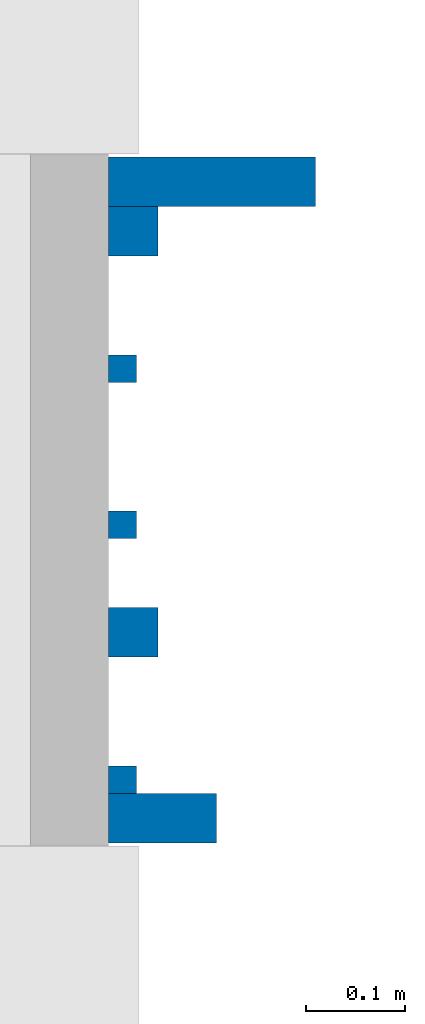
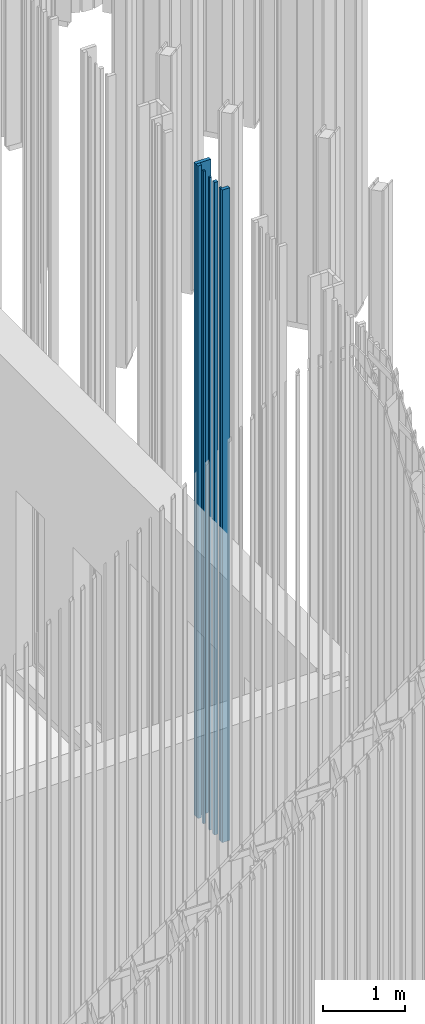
# One storey, part 179 of 390: 7 walls.
"""IFC2X3 building model written with IfcOpenShell, lengths in millimetres."""

from ifc_helpers import new_model, entity, si_unit, converted_unit, derived_unit, money_unit, direction, frame, origin_with_axes, place, context, subcontext, project, spatial, faceted_brep, material, type_object, element, save


model = new_model("IFC2X3")

# Units and contexts
model_context = context("Model", 3, precision=1e-05, world=origin_with_axes(), true_north=direction((0.0, 1.0)))
body_context = subcontext(model_context, "Body", "Model", "MODEL_VIEW")
ifc_project = project(units=[si_unit("LENGTHUNIT", "METRE", prefix="MILLI"), si_unit("AREAUNIT", "SQUARE_METRE"), si_unit("VOLUMEUNIT", "CUBIC_METRE"), converted_unit("PLANEANGLEUNIT", "DEGREE", entity("IfcPlaneAngleMeasure", 0.0174532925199), si_unit("PLANEANGLEUNIT", "RADIAN"), dimensions=[0, 0, 0, 0, 0, 0, 0]), si_unit("SOLIDANGLEUNIT", "STERADIAN"), money_unit("EUR"), converted_unit("TIMEUNIT", "Year", entity("IfcTimeMeasure", 31556926.0), si_unit("TIMEUNIT", "SECOND"), dimensions=[0, 0, 1, 0, 0, 0, 0]), si_unit("MASSUNIT", "GRAM", prefix="KILO"), si_unit("THERMODYNAMICTEMPERATUREUNIT", "DEGREE_CELSIUS"), si_unit("LUMINOUSINTENSITYUNIT", "LUMEN"), si_unit("ENERGYUNIT", "JOULE", prefix="MEGA"), derived_unit("THERMALCONDUCTANCEUNIT", [(si_unit("POWERUNIT", "WATT"), 1), (si_unit("LENGTHUNIT", "METRE"), -1), (si_unit("THERMODYNAMICTEMPERATUREUNIT", "KELVIN"), -1)]), derived_unit("SPECIFICHEATCAPACITYUNIT", [(si_unit("ENERGYUNIT", "JOULE"), 1), (si_unit("MASSUNIT", "GRAM", prefix="KILO"), -1), (si_unit("THERMODYNAMICTEMPERATUREUNIT", "KELVIN"), -1)]), derived_unit("MASSDENSITYUNIT", [(si_unit("MASSUNIT", "GRAM", prefix="KILO"), 1), (si_unit("VOLUMEUNIT", "CUBIC_METRE"), -1)])], contexts=[model_context])

# Site, building, storey
site_placement = place(None, origin_with_axes())
site = spatial("IfcSite", under=ifc_project, at=site_placement, Name="Site", CompositionType="ELEMENT")
building_placement = place(site_placement, origin_with_axes())
building = spatial("IfcBuilding", under=site, at=building_placement, Name="Building", CompositionType="ELEMENT")
storey_placement = place(building_placement, origin_with_axes())
storey = spatial("IfcBuildingStorey", under=building, at=storey_placement, Name="1 korrus", CompositionType="ELEMENT", Elevation=0.0)

# Walls
ifc_material = material(Name="Site specified")
wall_type = type_object("IfcWallType", Name="Puitfassaadi ribistik", PredefinedType="NOTDEFINED")
wall_1_placement = place(storey_placement, frame((139800.999999, 48966.8244708, 100.000000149), z_axis=(0.0, 0.0, 1.0), x_axis=(0.0, -1.0, 0.0)))
element("IfcWall", 1, at=wall_1_placement, inside=storey, type_object=wall_type, material=ifc_material, Name="Site specified", context=body_context, shape_type="Brep", body=[
    faceted_brep([(-14.0, -14.0, 9764.99999985), (-14.0, -14.0, 0.0), (14.0, -14.0, 0.0), (14.0, -14.0, 9764.99999985), (-14.0, 14.0, 9764.99999985), (-14.0, 14.0, 0.0), (14.0, 14.0, 0.0), (14.0, 14.0, 9764.99999985)], [[[0, 1, 2, 3]], [[4, 5, 1, 0]], [[2, 1, 5, 6]], [[3, 2, 6, 7]], [[4, 0, 3, 7]], [[7, 6, 5, 4]]]),
])
wall_2_placement = place(storey_placement, frame((139811.999999, 49521.8244708, 100.000000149), z_axis=(0.0, 0.0, 1.0), x_axis=(0.0, -1.0, 0.0)))
element("IfcWall", 2, at=wall_2_placement, inside=storey, type_object=wall_type, material=ifc_material, Name="Site specified", context=body_context, shape_type="Brep", body=[
    faceted_brep([(-25.0, -25.0, 9764.99999985), (-25.0, -25.0, 0.0), (25.0, -25.0, 0.0), (25.0, -25.0, 9764.99999985), (-25.0, 25.0, 9764.99999985), (-25.0, 25.0, 0.0), (25.0, 25.0, 0.0), (25.0, 25.0, 9764.99999985)], [[[0, 1, 2, 3]], [[4, 5, 1, 0]], [[2, 1, 5, 6]], [[3, 2, 6, 7]], [[4, 0, 3, 7]], [[7, 6, 5, 4]]]),
])
wall_3_placement = place(storey_placement, frame((139800.999999, 49382.8244708, 100.000000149), z_axis=(0.0, 0.0, 1.0), x_axis=(0.0, -1.0, 0.0)))
element("IfcWall", 3, at=wall_3_placement, inside=storey, type_object=wall_type, material=ifc_material, Name="Site specified", context=body_context, shape_type="Brep", body=[
    faceted_brep([(-14.0, -14.0, 9764.99999985), (-14.0, -14.0, 0.0), (14.0, -14.0, 0.0), (14.0, -14.0, 9764.99999985), (-14.0, 14.0, 9764.99999985), (-14.0, 14.0, 0.0), (14.0, 14.0, 0.0), (14.0, 14.0, 9764.99999985)], [[[0, 1, 2, 3]], [[4, 5, 1, 0]], [[2, 1, 5, 6]], [[3, 2, 6, 7]], [[4, 0, 3, 7]], [[7, 6, 5, 4]]]),
])
wall_4_placement = place(storey_placement, frame((139811.999999, 49115.8244708, 100.000000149), z_axis=(0.0, 0.0, 1.0), x_axis=(0.0, -1.0, 0.0)))
element("IfcWall", 4, at=wall_4_placement, inside=storey, type_object=wall_type, material=ifc_material, Name="Site specified", context=body_context, shape_type="Brep", body=[
    faceted_brep([(-25.0, -25.0, 9764.99999985), (-25.0, -25.0, 0.0), (25.0, -25.0, 0.0), (25.0, -25.0, 9764.99999985), (-25.0, 25.0, 9764.99999985), (-25.0, 25.0, 0.0), (25.0, 25.0, 0.0), (25.0, 25.0, 9764.99999985)], [[[0, 1, 2, 3]], [[4, 5, 1, 0]], [[2, 1, 5, 6]], [[3, 2, 6, 7]], [[4, 0, 3, 7]], [[7, 6, 5, 4]]]),
])
wall_5_placement = place(storey_placement, frame((139841.499999, 48927.8244708, 100.000000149), z_axis=(0.0, 0.0, 1.0), x_axis=(0.0, -1.0, 0.0)))
element("IfcWall", 5, at=wall_5_placement, inside=storey, type_object=wall_type, material=ifc_material, Name="Site specified", context=body_context, shape_type="Brep", body=[
    faceted_brep([(-25.0, -54.5, 9764.99999985), (-25.0, -54.5, 0.0), (25.0, -54.5, 0.0), (25.0, -54.5, 9764.99999985), (-25.0, 54.5, 9764.99999985), (-25.0, 54.5, 0.0), (25.0, 54.5, 0.0), (25.0, 54.5, 9764.99999985)], [[[0, 1, 2, 3]], [[4, 5, 1, 0]], [[2, 1, 5, 6]], [[3, 2, 6, 7]], [[4, 0, 3, 7]], [[7, 6, 5, 4]]]),
])
wall_6_placement = place(storey_placement, frame((139891.499999, 49571.8244708, 100.000000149), z_axis=(0.0, 0.0, 1.0), x_axis=(0.0, -1.0, 0.0)))
element("IfcWall", 6, at=wall_6_placement, inside=storey, type_object=wall_type, material=ifc_material, Name="Site specified", context=body_context, shape_type="Brep", body=[
    faceted_brep([(-25.0, -104.5, 9764.99999985), (-25.0, -104.5, 0.0), (25.0, -104.5, 0.0), (25.0, -104.5, 9764.99999985), (-25.0, 104.5, 9764.99999985), (-25.0, 104.5, 0.0), (25.0, 104.5, 0.0), (25.0, 104.5, 9764.99999985)], [[[0, 1, 2, 3]], [[4, 5, 1, 0]], [[2, 1, 5, 6]], [[3, 2, 6, 7]], [[4, 0, 3, 7]], [[7, 6, 5, 4]]]),
])
wall_7_placement = place(storey_placement, frame((139800.999999, 49224.8244708, 100.000000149), z_axis=(0.0, 0.0, 1.0), x_axis=(0.0, -1.0, 0.0)))
element("IfcWall", 7, at=wall_7_placement, inside=storey, type_object=wall_type, material=ifc_material, Name="Site specified", context=body_context, shape_type="Brep", body=[
    faceted_brep([(-14.0, -14.0, 9764.99999985), (-14.0, -14.0, 0.0), (14.0, -14.0, 0.0), (14.0, -14.0, 9764.99999985), (-14.0, 14.0, 9764.99999985), (-14.0, 14.0, 0.0), (14.0, 14.0, 0.0), (14.0, 14.0, 9764.99999985)], [[[0, 1, 2, 3]], [[4, 5, 1, 0]], [[2, 1, 5, 6]], [[3, 2, 6, 7]], [[4, 0, 3, 7]], [[7, 6, 5, 4]]]),
])

save(model, "model.ifc")
